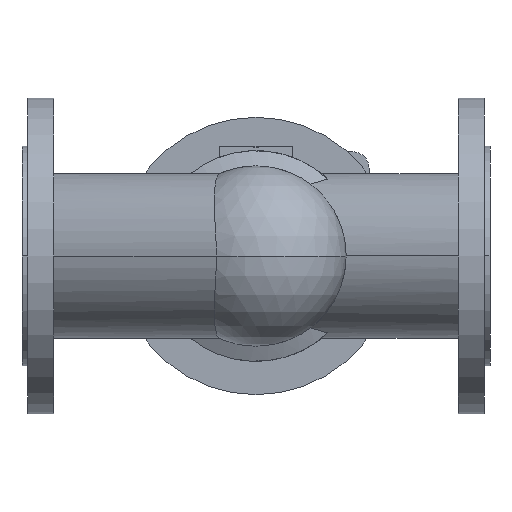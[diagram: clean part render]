
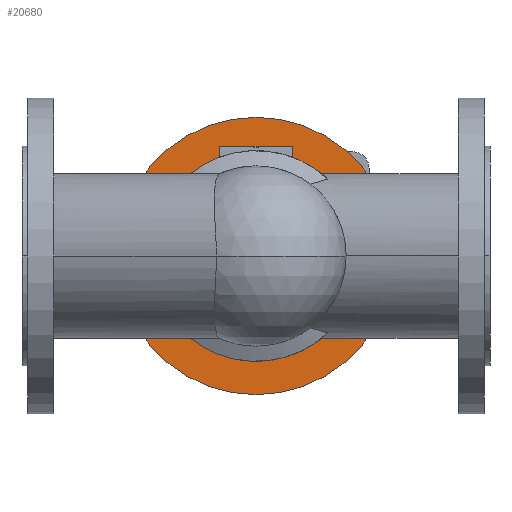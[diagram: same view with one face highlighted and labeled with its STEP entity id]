
A CAD part, front view. The second image highlights one B-rep face of the part: STEP entity #20680.
In plain terms, the highlighted planar face has unit normal (0, -1, 0).
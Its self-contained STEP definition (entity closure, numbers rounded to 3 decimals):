
#1340=CARTESIAN_POINT('',(318.5,114.2,0.));
#1350=VERTEX_POINT('',#1340);
#1400=CARTESIAN_POINT('',(200.,114.2,0.));
#1410=DIRECTION('',(0.,-1.,0.));
#1420=DIRECTION('',(-1.,0.,0.));
#1430=AXIS2_PLACEMENT_3D('',#1400,#1410,#1420);
#1440=CIRCLE('',#1430,118.5);
#1450=CARTESIAN_POINT('',(81.5,114.2,0.));
#1460=VERTEX_POINT('',#1450);
#1470=EDGE_CURVE('',#1350,#1460,#1440,.T.);
#1780=CARTESIAN_POINT('',(110.,114.2,0.));
#1790=VERTEX_POINT('',#1780);
#1820=CARTESIAN_POINT('',(200.,114.2,0.));
#1830=DIRECTION('',(0.,-1.,0.));
#1840=DIRECTION('',(-1.,0.,0.));
#1850=AXIS2_PLACEMENT_3D('',#1820,#1830,#1840);
#1860=CIRCLE('',#1850,90.);
#1870=CARTESIAN_POINT('',(290.,114.2,0.));
#1880=VERTEX_POINT('',#1870);
#1890=EDGE_CURVE('',#1880,#1790,#1860,.T.);
#20530=CARTESIAN_POINT('',(95.75,114.2,0.));
#20540=DIRECTION('',(0.,-1.,0.));
#20550=DIRECTION('',(-1.,0.,0.));
#20560=AXIS2_PLACEMENT_3D('',#20530,#20540,#20550);
#20570=PLANE('',#20560);
#20580=ORIENTED_EDGE('',*,*,#1890,.F.);
#20590=EDGE_CURVE('',#1790,#1880,#1860,.T.);
#20600=ORIENTED_EDGE('',*,*,#20590,.F.);
#20610=EDGE_LOOP('',(#20600,#20580));
#20620=FACE_BOUND('',#20610,.T.);
#20630=ORIENTED_EDGE('',*,*,#1470,.T.);
#20640=EDGE_CURVE('',#1460,#1350,#1440,.T.);
#20650=ORIENTED_EDGE('',*,*,#20640,.T.);
#20660=EDGE_LOOP('',(#20650,#20630));
#20670=FACE_OUTER_BOUND('',#20660,.T.);
#20680=ADVANCED_FACE('',(#20620,#20670),#20570,.T.);
